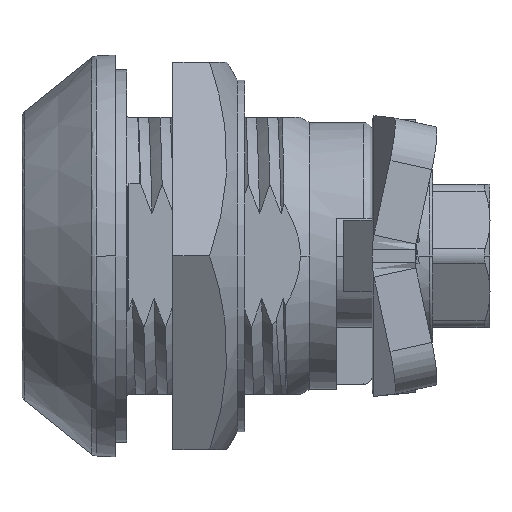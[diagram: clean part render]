
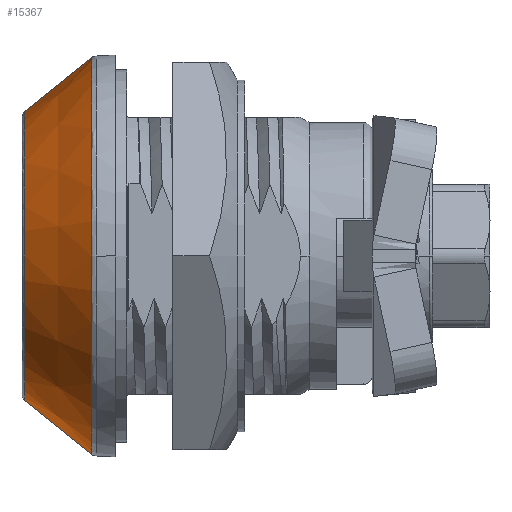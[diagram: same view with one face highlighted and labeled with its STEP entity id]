
A CAD part, left-side view. The second image highlights one B-rep face of the part: STEP entity #15367.
In plain terms, the highlighted conical face has half-angle 38.809 degrees and reference radius 13.82 mm.
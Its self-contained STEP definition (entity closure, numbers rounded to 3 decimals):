
#2562 = DIRECTION ( 'NONE',  ( 0., -1., 0. ) ) ;
#2601 = CARTESIAN_POINT ( 'NONE',  ( 0., 19.526, 0. ) ) ;
#3113 = DIRECTION ( 'NONE',  ( 0., 0., -1. ) ) ;
#3506 = CARTESIAN_POINT ( 'NONE',  ( 0., 24.213, 10.05 ) ) ;
#5642 = AXIS2_PLACEMENT_3D ( 'NONE', #22968, #22936, #22902 ) ;
#6403 = ORIENTED_EDGE ( 'NONE', *, *, #19873, .T. ) ;
#6876 = VECTOR ( 'NONE', #15650, 1000. ) ;
#9912 = VERTEX_POINT ( 'NONE', #3506 ) ;
#10476 = CONICAL_SURFACE ( 'NONE', #29529, 13.82, 0.677 ) ;
#10943 = EDGE_CURVE ( 'NONE', #9912, #19460, #13107, .T. ) ;
#11809 = EDGE_CURVE ( 'NONE', #9912, #24799, #17395, .T. ) ;
#12324 = LINE ( 'NONE', #13978, #17701 ) ;
#13107 = LINE ( 'NONE', #16099, #6876 ) ;
#13782 = DIRECTION ( 'NONE',  ( 0., -0.779, -0.627 ) ) ;
#13978 = CARTESIAN_POINT ( 'NONE',  ( 0., 19.526, -13.82 ) ) ;
#14395 = ORIENTED_EDGE ( 'NONE', *, *, #10943, .T. ) ;
#14542 = EDGE_CURVE ( 'NONE', #24799, #18039, #12324, .T. ) ;
#15367 = ADVANCED_FACE ( 'NONE', ( #28985 ), #10476, .T. ) ;
#15650 = DIRECTION ( 'NONE',  ( 0., -0.779, 0.627 ) ) ;
#16099 = CARTESIAN_POINT ( 'NONE',  ( 0., 19.526, 13.82 ) ) ;
#16654 = CARTESIAN_POINT ( 'NONE',  ( 0., 19.526, 13.82 ) ) ;
#17395 = CIRCLE ( 'NONE', #25800, 10.05 ) ;
#17701 = VECTOR ( 'NONE', #13782, 1000. ) ;
#18039 = VERTEX_POINT ( 'NONE', #21777 ) ;
#19460 = VERTEX_POINT ( 'NONE', #16654 ) ;
#19873 = EDGE_CURVE ( 'NONE', #19460, #18039, #26158, .T. ) ;
#20726 = CARTESIAN_POINT ( 'NONE',  ( 0., 24.213, -10.05 ) ) ;
#21777 = CARTESIAN_POINT ( 'NONE',  ( 0., 19.526, -13.82 ) ) ;
#22902 = DIRECTION ( 'NONE',  ( 0., 0., -1. ) ) ;
#22936 = DIRECTION ( 'NONE',  ( 0., 1., 0. ) ) ;
#22968 = CARTESIAN_POINT ( 'NONE',  ( 0., 19.526, 0. ) ) ;
#24799 = VERTEX_POINT ( 'NONE', #20726 ) ;
#25184 = ORIENTED_EDGE ( 'NONE', *, *, #14542, .F. ) ;
#25217 = ORIENTED_EDGE ( 'NONE', *, *, #11809, .F. ) ;
#25248 = EDGE_LOOP ( 'NONE', ( #25217, #14395, #6403, #25184 ) ) ;
#25737 = DIRECTION ( 'NONE',  ( 0., 0., -1. ) ) ;
#25768 = DIRECTION ( 'NONE',  ( 0., 1., 0. ) ) ;
#25771 = CARTESIAN_POINT ( 'NONE',  ( 0., 24.213, 0. ) ) ;
#25800 = AXIS2_PLACEMENT_3D ( 'NONE', #25771, #25768, #25737 ) ;
#26158 = CIRCLE ( 'NONE', #5642, 13.82 ) ;
#28985 = FACE_OUTER_BOUND ( 'NONE', #25248, .T. ) ;
#29529 = AXIS2_PLACEMENT_3D ( 'NONE', #2601, #2562, #3113 ) ;
